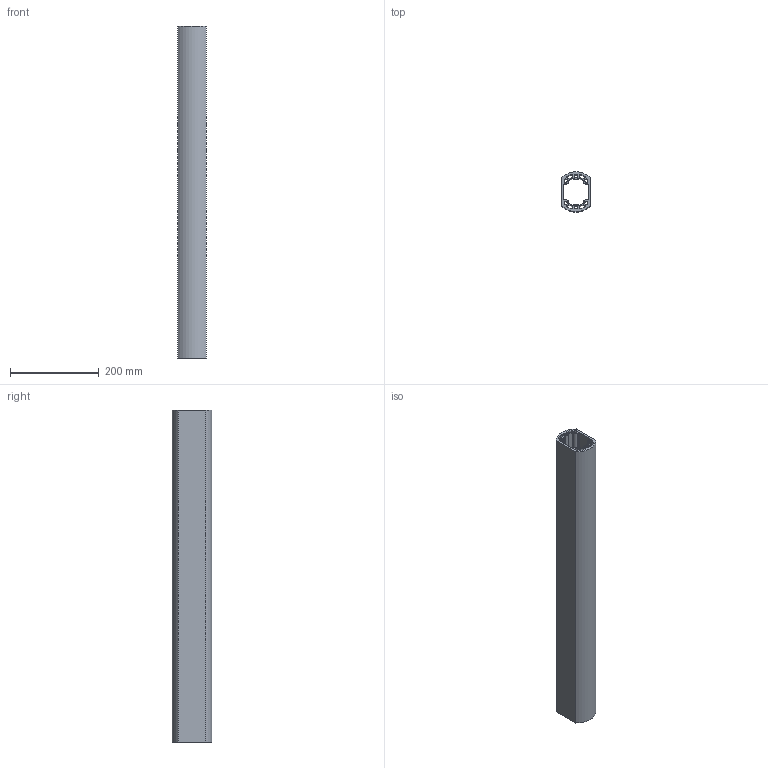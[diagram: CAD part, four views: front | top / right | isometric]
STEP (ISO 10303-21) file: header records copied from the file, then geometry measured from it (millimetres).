
FILE_DESCRIPTION((''),'2;1');
FILE_NAME('SCE-SA30TC','2018-12-04T11:23:19',('dougp'),('SAGINAW CONTROL & ENGINEERING'),'CREO PARAMETRIC BY PTC INC, 2017260','CREO PARAMETRIC BY PTC INC, 2017260','');
FILE_SCHEMA(('AUTOMOTIVE_DESIGN { 1 0 10303 214 1 1 1 1 }'));
Length unit declared in the file: inch
Products named in the file (1): SCE-SA30TC
Bounding box: 65 x 90 x 750.06 mm (x, y, z)
Volume: 1507139.6 mm3; surface area: 573929 mm2
Topology: 1 solids, 1 shells, 82 faces, 240 edges, 160 vertices
Faces by surface type: cylinder 64, plane 18
Entity records: 2955 total; most frequent: DIRECTION 532, CARTESIAN_POINT 484, ORIENTED_EDGE 480, EDGE_CURVE 240, AXIS2_PLACEMENT_3D 210, VERTEX_POINT 160, CIRCLE 128, VECTOR 112
